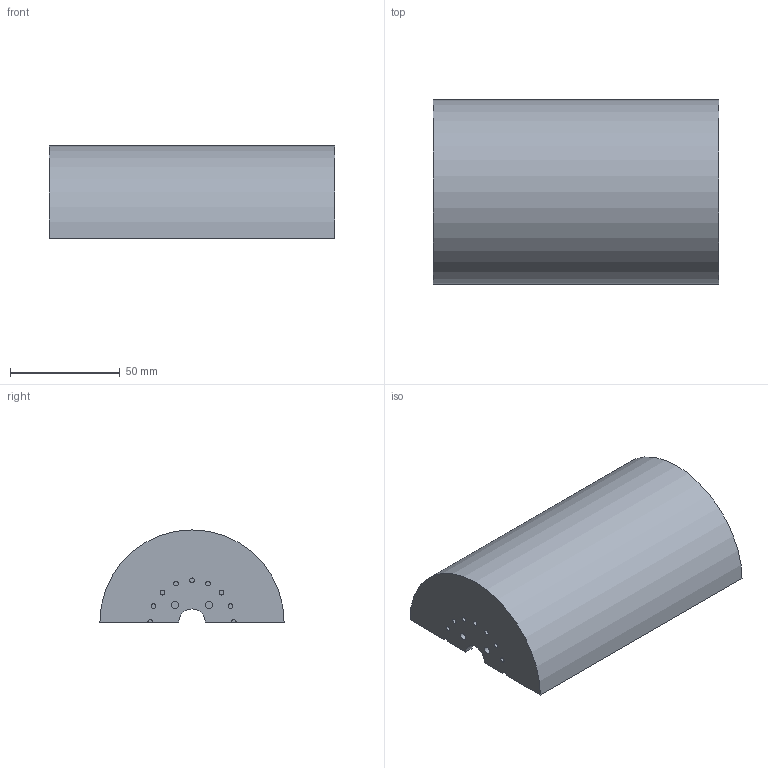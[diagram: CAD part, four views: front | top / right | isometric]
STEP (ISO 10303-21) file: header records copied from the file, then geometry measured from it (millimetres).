
FILE_DESCRIPTION(('Open CASCADE Model'),'2;1');
FILE_NAME('Open CASCADE Shape Model','2026-10-25T05:18:02',('Author'),( 'Open CASCADE'),'Open CASCADE STEP processor 7.9','Open CASCADE 7.9' ,'Unknown');
FILE_SCHEMA(('AUTOMOTIVE_DESIGN { 1 0 10303 214 1 1 1 1 }'));
Length unit declared in the file: millimetre
Products named in the file (1): Open CASCADE STEP translator 7.9 96
Bounding box: 130 x 84 x 42 mm (x, y, z)
Volume: 60566.5 mm3; surface area: 44038.4 mm2
Topology: 1 solids, 1 shells, 23 faces, 63 edges, 42 vertices
Faces by surface type: cylinder 15, plane 8
Full cylindrical faces by diameter (mm): 2.2 x7, 3.4 x2
Entity records: 1627 total; most frequent: CARTESIAN_POINT 285, DIRECTION 262, LINE 129, VECTOR 129, ORIENTED_EDGE 126, PCURVE 126, DEFINITIONAL_REPRESENTATION 126, EDGE_CURVE 63
